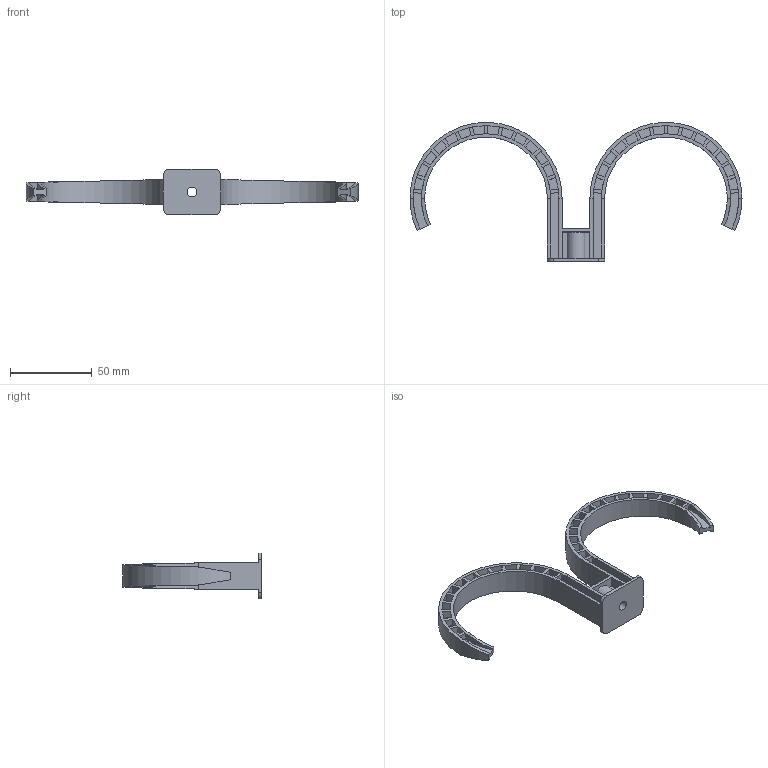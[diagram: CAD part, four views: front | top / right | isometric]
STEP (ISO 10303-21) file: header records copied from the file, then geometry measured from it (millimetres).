
FILE_DESCRIPTION((''),'2;1');
FILE_NAME('VH75-2_20211102_WIESZAK','2025-12-30T10:58:22',('niepogodzinskij'),(''),'CREO PARAMETRIC BY PTC INC, 2025010','CREO PARAMETRIC BY PTC INC, 2025010','');
FILE_SCHEMA(('CONFIG_CONTROL_DESIGN'));
Length unit declared in the file: millimetre
Products named in the file (1): VH75-2_20211102_WIESZAK
Bounding box: 203 x 84.95 x 28 mm (x, y, z)
Volume: 31706.5 mm3; surface area: 30221.8 mm2
Topology: 1 solids, 1 shells, 436 faces, 1046 edges, 612 vertices
Faces by surface type: plane 220, cylinder 140, bspline 76
Entity records: 18620 total; most frequent: CARTESIAN_POINT 9498, ORIENTED_EDGE 2092, DIRECTION 1518, EDGE_CURVE 1046, VERTEX_POINT 612, VECTOR 510, LINE 510, AXIS2_PLACEMENT_3D 504
